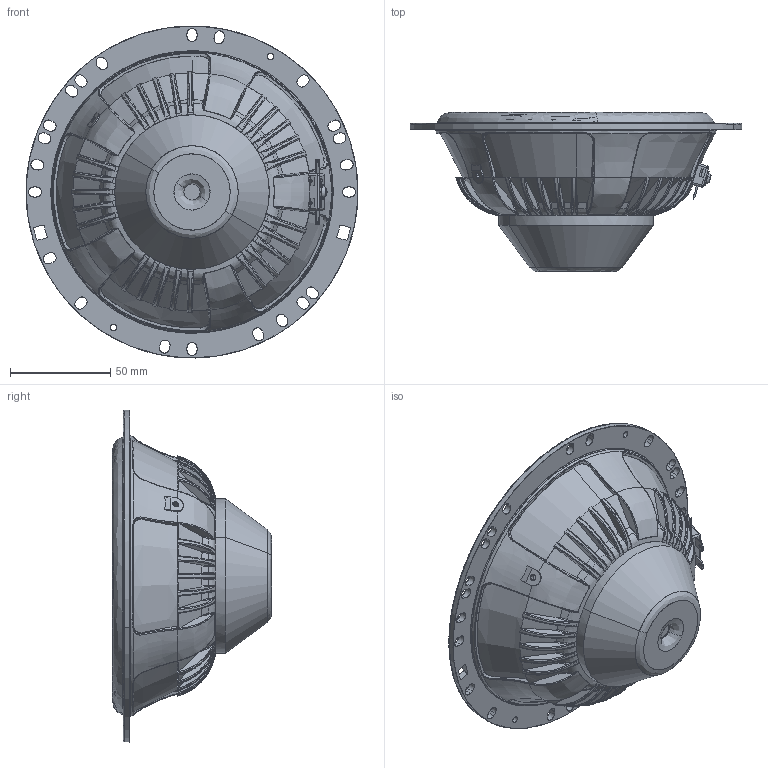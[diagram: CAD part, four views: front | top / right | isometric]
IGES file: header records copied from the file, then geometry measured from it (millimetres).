
Start section: SolidWorks IGES file using analytic representation for surfaces
Global section: file name: W:\TT\WEB 3D enheder\WEB 16W_4531G06\16W-4531G06.IGS; native system: SolidWorks 2019; preprocessor: SolidWorks 2019; author: mhn; date: 200617.151053; units: millimetre
Bounding box: 165.47 x 79.3 x 165.47 mm (x, y, z)
Surface area: 75735.9 mm2 (no closed solid volume)
Topology: 0 solids, 0 shells, 1443 faces, 15988 edges, 15887 vertices
Faces by surface type: bspline 1094, revolution 349
